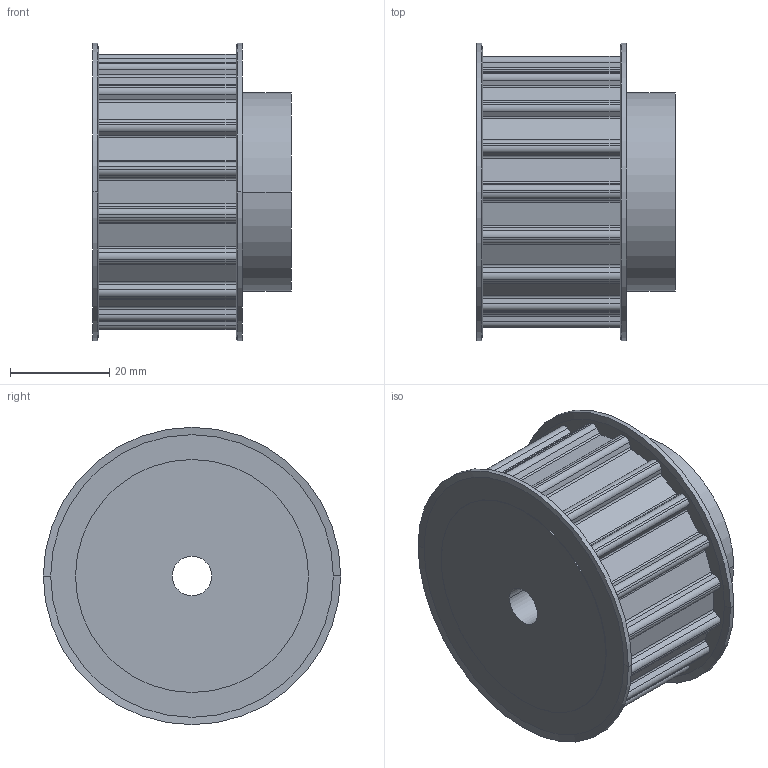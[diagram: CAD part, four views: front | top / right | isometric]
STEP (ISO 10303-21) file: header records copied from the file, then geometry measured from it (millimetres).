
FILE_DESCRIPTION( ( '' ), '1' );
FILE_NAME( 'C:/Users/Stangenbergd/Documents/CAD_Step/1/16831800.stp', '2021-10-19T09:45:22', ( '' ), ( '' ), ' ', ' ', ' ' );
FILE_SCHEMA( ( 'CONFIG_CONTROL_DESIGN' ) );
Length unit declared in the file: millimetre
Products named in the file (1): 1
Bounding box: 40.06 x 60 x 60 mm (x, y, z)
Volume: 76261.3 mm3; surface area: 15436.7 mm2
Topology: 1 solids, 1 shells, 171 faces, 484 edges, 320 vertices
Faces by surface type: cylinder 102, plane 61, cone 8
Entity records: 5674 total; most frequent: DIRECTION 1040, CARTESIAN_POINT 976, ORIENTED_EDGE 968, EDGE_CURVE 484, AXIS2_PLACEMENT_3D 384, VERTEX_POINT 320, LINE 272, VECTOR 272
